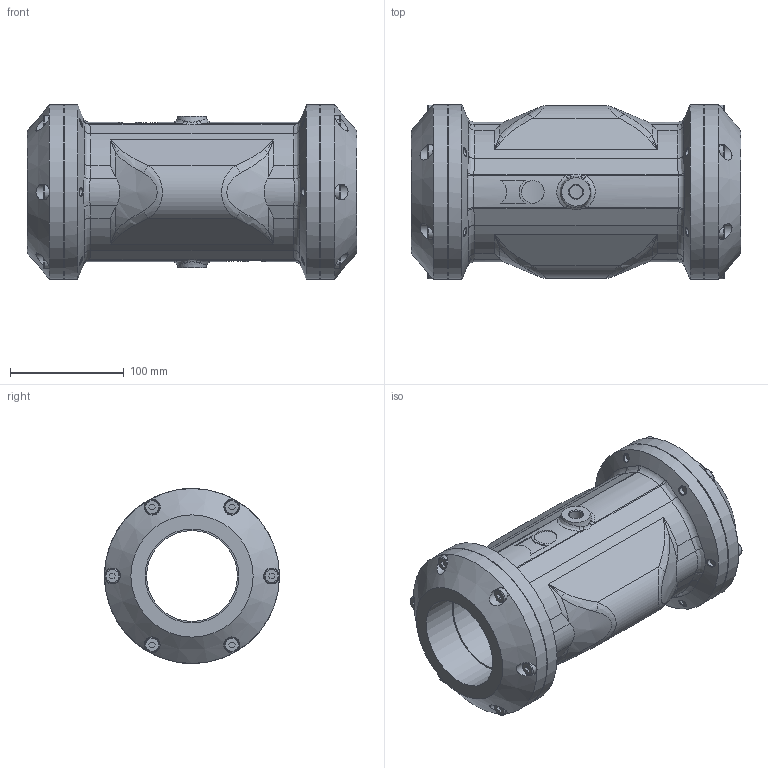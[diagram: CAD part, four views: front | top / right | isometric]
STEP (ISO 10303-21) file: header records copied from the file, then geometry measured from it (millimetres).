
FILE_DESCRIPTION(/* description */ (''),/* implementation_level */ '2;1');
FILE_NAME(/* name */ 'QSV80_assembly_VEREINFACHT.stp',/* time_stamp */ '2013-09-17T21:52:10+02:00',/* author */ (''),/* organization */ (''),/* preprocessor_version */ 'ST-DEVELOPER v11',/* originating_system */ 'SIEMENS PLM Software NX 7.5',/* authorisation */ '');
FILE_SCHEMA (('AUTOMOTIVE_DESIGN { 1 0 10303 214 1 1 1 1 }'));
Length unit declared in the file: millimetre
Products named in the file (1): memdEBF5a2t2
Bounding box: 290 x 154 x 154 mm (x, y, z)
Volume: 2456603.5 mm3; surface area: 301192.6 mm2
Topology: 15 solids, 15 shells, 462 faces, 1038 edges, 632 vertices
Faces by surface type: plane 164, cylinder 129, bspline 76, cone 49, torus 44
Full cylindrical faces by diameter (mm): 6.8 x12, 8.5 x12, 11.801 x1, 14 x12, 20 x2, 80 x1, 82.55 x2, 119.7 x2, 129.7 x2, 154 x4
Entity records: 15214 total; most frequent: CARTESIAN_POINT 5647, DIRECTION 1890, ORIENTED_EDGE 1850, EDGE_CURVE 925, AXIS2_PLACEMENT_3D 771, EDGE_LOOP 620, VERTEX_POINT 597, ADVANCED_FACE 462
